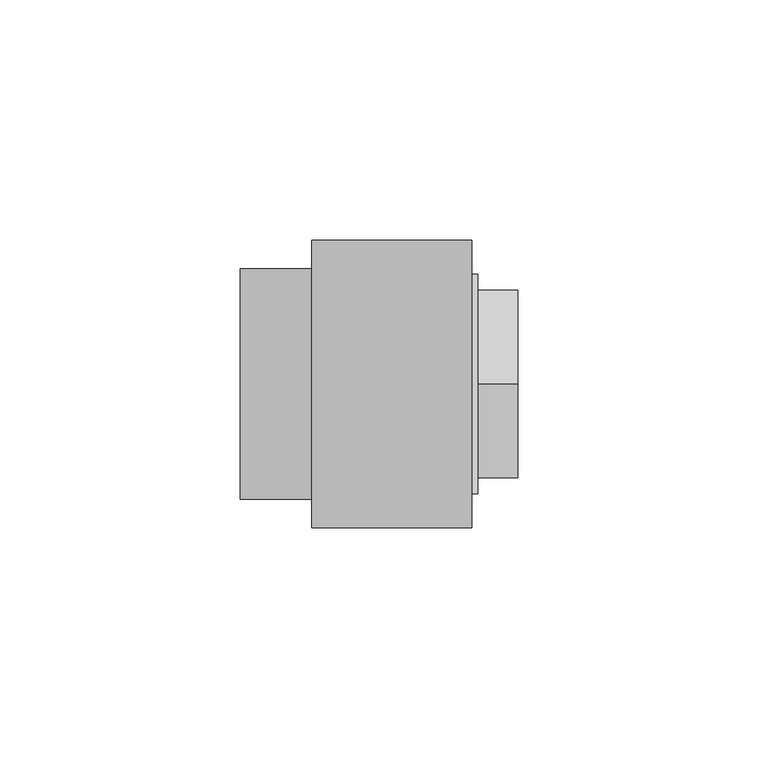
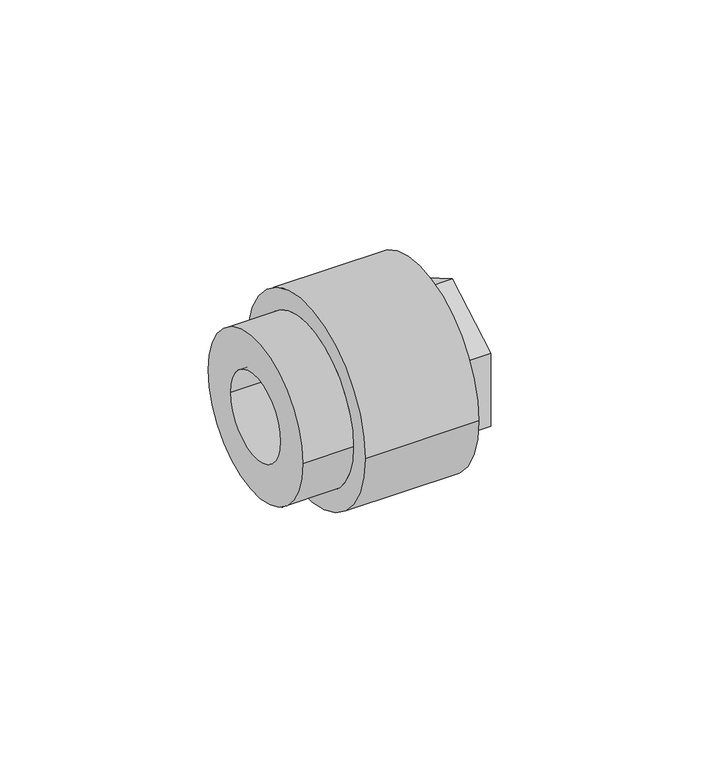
"""IFC4 building model written with IfcOpenShell, lengths in millimetres: pipe fitting geometry, Aquatherm - Fusion Outlet Transition Female : POTABLE BRASS - HEX."""

from ifc_helpers import new_model, si_unit, frame, origin, place, context, project, spatial, polyline, circle_curve, source, transform, mapped, element, save
from ifc_brep_helpers import plane_surface, cylinder_surface, revolved_surface, advanced_brep


def pipe_fitting_bdf1be44(model_context):
    return source(origin(), model_context, "Body", "AdvancedBrep", [
        advanced_brep(
        [(25.4635, 15.875, 0.0), (25.4635, -15.875, 0.0), (40.3463125, -15.875, 0.0), (40.3463125, 15.875, 0.0), (25.4635, 16.66875, 0.0), (25.4635, -16.66875, 0.0), (22.2885, 16.66875, 0.0), (22.2885, -16.66875, 0.0), (22.2885, 12.7, 0.0), (22.2885, -12.7, 0.0), (19.1135, 12.7, 0.0), (19.1135, -12.7, 0.0), (19.1135, 24.003, 0.0), (19.1135, -24.003, 0.0), (33.401, 24.003, 0.0), (33.401, -24.003, 0.0), (42.926, 16.66875, 0.0), (42.926, -16.66875, 0.0), (42.926, -19.558, 0.0), (42.926, -19.558, -11.2918166), (42.926, 0.0, -22.5836331), (42.926, 19.558, -11.2918166), (42.926, 19.558, 0.0), (42.926, 19.558, 11.2918166), (42.926, 0.0, 22.5836331), (42.926, -19.558, 11.2918166), (33.401, 22.86, 0.0), (33.401, -22.86, 0.0), (34.591625, 22.86, 0.0), (34.591625, -22.86, 0.0), (34.591625, 0.0, -22.5836331), (34.591625, -19.558, -11.2918166), (34.591625, -19.558, 11.2918166), (34.591625, 0.0, 22.5836331), (34.591625, 19.558, 11.2918166), (34.591625, 19.558, -11.2918166)],
        [
            (0, 1, circle_curve(frame((25.4635, 0.0, 0.0), z_axis=(-1.0, 0.0, 0.0), x_axis=(0.0, -1.0, 0.0)), 15.875)),
            (1, 2),
            (2, 3, circle_curve(frame((40.3463125, 0.0, 0.0), z_axis=(1.0, 0.0, 0.0), x_axis=(0.0, -1.0, 0.0)), 15.875)),
            (3, 0),
            (1, 0, circle_curve(frame((25.4635, 0.0, 0.0), z_axis=(-1.0, 0.0, 0.0), x_axis=(0.0, -1.0, 0.0)), 15.875)),
            (3, 2, circle_curve(frame((40.3463125, 0.0, 0.0), z_axis=(1.0, 0.0, 0.0), x_axis=(0.0, -1.0, 0.0)), 15.875)),
            (0, 4),
            (4, 5, circle_curve(frame((25.4635, 0.0, 0.0), z_axis=(-1.0, 0.0, 0.0), x_axis=(0.0, -1.0, 0.0)), 16.66875)),
            (5, 1),
            (5, 4, circle_curve(frame((25.4635, 0.0, 0.0), z_axis=(-1.0, 0.0, 0.0), x_axis=(0.0, -1.0, 0.0)), 16.66875)),
            (4, 6),
            (6, 7, circle_curve(frame((22.2885, 0.0, 0.0), z_axis=(-1.0, 0.0, 0.0), x_axis=(0.0, -1.0, 0.0)), 16.66875)),
            (7, 5),
            (7, 6, circle_curve(frame((22.2885, 0.0, 0.0), z_axis=(-1.0, 0.0, 0.0), x_axis=(0.0, -1.0, 0.0)), 16.66875)),
            (6, 8),
            (8, 9, circle_curve(frame((22.2885, 0.0, 0.0), z_axis=(-1.0, 0.0, 0.0), x_axis=(0.0, -1.0, 0.0)), 12.7)),
            (9, 7),
            (9, 8, circle_curve(frame((22.2885, 0.0, 0.0), z_axis=(-1.0, 0.0, 0.0), x_axis=(0.0, -1.0, 0.0)), 12.7)),
            (8, 10),
            (10, 11, circle_curve(frame((19.1135, 0.0, 0.0), z_axis=(-1.0, 0.0, 0.0), x_axis=(0.0, -1.0, 0.0)), 12.7)),
            (11, 9),
            (11, 10, circle_curve(frame((19.1135, 0.0, 0.0), z_axis=(-1.0, 0.0, 0.0), x_axis=(0.0, -1.0, 0.0)), 12.7)),
            (10, 12),
            (12, 13, circle_curve(frame((19.1135, 0.0, 0.0), z_axis=(-1.0, 0.0, 0.0), x_axis=(0.0, -1.0, 0.0)), 24.003)),
            (13, 11),
            (13, 12, circle_curve(frame((19.1135, 0.0, 0.0), z_axis=(-1.0, 0.0, 0.0), x_axis=(0.0, -1.0, 0.0)), 24.003)),
            (12, 14),
            (14, 15, circle_curve(frame((33.401, 0.0, 0.0), z_axis=(-1.0, 0.0, 0.0), x_axis=(0.0, -1.0, 0.0)), 24.003)),
            (15, 13),
            (15, 14, circle_curve(frame((33.401, 0.0, 0.0), z_axis=(-1.0, 0.0, 0.0), x_axis=(0.0, -1.0, 0.0)), 24.003)),
            (16, 17, circle_curve(frame((42.926, 0.0, 0.0), z_axis=(-1.0, 0.0, 0.0), x_axis=(0.0, -1.0, 0.0)), 16.66875)),
            (17, 18),
            (18, 19),
            (19, 20),
            (20, 21),
            (21, 22),
            (22, 16),
            (17, 16, circle_curve(frame((42.926, 0.0, 0.0), z_axis=(-1.0, 0.0, 0.0), x_axis=(0.0, -1.0, 0.0)), 16.66875)),
            (22, 23),
            (23, 24),
            (24, 25),
            (25, 18),
            (2, 17),
            (16, 3),
            (14, 26),
            (26, 27, circle_curve(frame((33.401, 0.0, 0.0), z_axis=(-1.0, 0.0, 0.0), x_axis=(0.0, -1.0, 0.0)), 22.86)),
            (27, 15),
            (27, 26, circle_curve(frame((33.401, 0.0, 0.0), z_axis=(-1.0, 0.0, 0.0), x_axis=(0.0, -1.0, 0.0)), 22.86)),
            (26, 28),
            (28, 29, circle_curve(frame((34.591625, 0.0, 0.0), z_axis=(-1.0, 0.0, 0.0), x_axis=(0.0, -1.0, 0.0)), 22.86)),
            (29, 27),
            (29, 28, circle_curve(frame((34.591625, 0.0, 0.0), z_axis=(-1.0, 0.0, 0.0), x_axis=(0.0, -1.0, 0.0)), 22.86)),
            (30, 31),
            (31, 32),
            (32, 33),
            (33, 34),
            (34, 35),
            (35, 30),
            (35, 21),
            (20, 30),
            (34, 23),
            (33, 24),
            (32, 25),
            (31, 19),
        ],
        [
            revolved_surface(polyline([(40.3463125, -15.875, 0.0), (25.4635, -15.875, 0.0)]), (44.7592251, 0.0, 0.0), (1.0, 0.0, 0.0)),
            plane_surface(frame((25.4635, 0.0, 0.0), z_axis=(-1.0, 0.0, 0.0), x_axis=(0.0, -1.0, 0.0))),
            revolved_surface(polyline([(25.4635, -16.66875, 0.0), (22.2885, -16.66875, 0.0)]), (44.7592251, 0.0, 0.0), (1.0, 0.0, 0.0)),
            plane_surface(frame((22.2885, 0.0, 0.0), z_axis=(1.0, 0.0, 0.0), x_axis=(0.0, -1.0, 0.0))),
            revolved_surface(polyline([(22.2885, -12.7, 0.0), (19.1135, -12.7, 0.0)]), (44.7592251, 0.0, 0.0), (1.0, 0.0, 0.0)),
            plane_surface(frame((19.1135, 0.0, 0.0), z_axis=(-1.0, 0.0, 0.0), x_axis=(0.0, -1.0, 0.0))),
            cylinder_surface(frame((44.7592251, 0.0, 0.0), z_axis=(1.0, 0.0, 0.0), x_axis=(0.0, -1.0, 0.0)), 24.003),
            plane_surface(frame((42.926, 0.0, 0.0), z_axis=(1.0, 0.0, 0.0), x_axis=(0.0, -1.0, 0.0))),
            revolved_surface(polyline([(42.926, -16.66875, 0.0), (40.3463125, -15.875, 0.0)]), (44.7592251, 0.0, 0.0), (1.0, 0.0, 0.0)),
            plane_surface(frame((33.401, 0.0, 0.0), z_axis=(1.0, 0.0, 0.0), x_axis=(0.0, -1.0, 0.0))),
            cylinder_surface(frame((44.7592251, 0.0, 0.0), z_axis=(1.0, 0.0, 0.0), x_axis=(0.0, -1.0, 0.0)), 22.86),
            plane_surface(frame((34.591625, 19.558, -11.2918166), z_axis=(1.0000000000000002, 0.0, 0.0), x_axis=(0.0, 0.8660254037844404, 0.4999999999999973))),
            plane_surface(frame((34.591625, 0.0, -22.5836331), z_axis=(0.0, 0.4999999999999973, -0.8660254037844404), x_axis=(1.0, 0.0, 0.0))),
            plane_surface(frame((34.591625, 19.558, -11.2918166), z_axis=(0.0, 1.0, 0.0), x_axis=(1.0, 0.0, 0.0))),
            plane_surface(frame((34.591625, 19.558, 11.2918166), z_axis=(0.0, 0.5000000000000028, 0.8660254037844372), x_axis=(1.0, 0.0, 0.0))),
            plane_surface(frame((34.591625, 0.0, 22.5836331), z_axis=(0.0, -0.49999999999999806, 0.8660254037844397), x_axis=(1.0, 0.0, 0.0))),
            plane_surface(frame((34.591625, -19.558, 11.2918166), z_axis=(0.0, -1.0, 0.0), x_axis=(1.0, 0.0, 0.0))),
            plane_surface(frame((34.591625, -19.558, -11.2918166), z_axis=(0.0, -0.5000000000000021, -0.8660254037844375), x_axis=(1.0, 0.0, 0.0))),
        ],
        [
            (0, [[1, 2, 3, 4]]),
            (0, [[-2, 5, -4, 6]]),
            (1, [[-1, 7, 8, 9]]),
            (1, [[-5, -9, 10, -7]]),
            (2, [[-8, 11, 12, 13]]),
            (2, [[-10, -13, 14, -11]]),
            (3, [[-12, 15, 16, 17]]),
            (3, [[-14, -17, 18, -15]]),
            (4, [[-16, 19, 20, 21]]),
            (4, [[-18, -21, 22, -19]]),
            (5, [[-20, 23, 24, 25]]),
            (5, [[-22, -25, 26, -23]]),
            (6, [[-24, 27, 28, 29]]),
            (6, [[-26, -29, 30, -27]]),
            (7, [[31, 32, 33, 34, 35, 36, 37]]),
            (7, [[38, -37, 39, 40, 41, 42, -32]]),
            (8, [[-3, 43, -31, 44]]),
            (8, [[-6, -44, -38, -43]]),
            (9, [[-28, 45, 46, 47]]),
            (9, [[-30, -47, 48, -45]]),
            (10, [[-46, 49, 50, 51]]),
            (10, [[-48, -51, 52, -49]]),
            (11, [[-50, -52], [53, 54, 55, 56, 57, 58]]),
            (12, [[-58, 59, -35, 60]]),
            (13, [[-57, 61, -39, -36, -59]]),
            (14, [[-56, 62, -40, -61]]),
            (15, [[-55, 63, -41, -62]]),
            (16, [[-54, 64, -33, -42, -63]]),
            (17, [[-53, -60, -34, -64]]),
        ],
    ),
        advanced_brep(
        [(-14.8967568, 24.003, 0.0), (-14.8967568, -24.003, 0.0), (-14.8967568, 12.7, 0.0), (-14.8967568, -12.7, 0.0), (19.1135, 24.003, 0.0), (19.1135, -24.003, 0.0), (19.1135, 12.7, 0.0), (19.1135, -12.7, 0.0), (0.0, 24.003, 0.0), (0.0, -24.003, 0.0), (33.401, 29.972, 0.0), (33.401, -29.972, 0.0), (33.401, 24.003, 0.0), (33.401, -24.003, 0.0), (0.0, 29.972, 0.0), (0.0, -29.972, 0.0)],
        [
            (0, 1, circle_curve(frame((-14.8967568, 0.0, 0.0), z_axis=(-1.0, 0.0, 0.0), x_axis=(0.0, -1.0, 0.0)), 24.003)),
            (1, 0, circle_curve(frame((-14.8967568, 0.0, 0.0), z_axis=(-1.0, 0.0, 0.0), x_axis=(0.0, -1.0, 0.0)), 24.003)),
            (2, 3, circle_curve(frame((-14.8967568, 0.0, 0.0), z_axis=(1.0, 0.0, 0.0), x_axis=(0.0, -1.0, 0.0)), 12.7)),
            (3, 2, circle_curve(frame((-14.8967568, 0.0, 0.0), z_axis=(1.0, 0.0, 0.0), x_axis=(0.0, -1.0, 0.0)), 12.7)),
            (4, 5, circle_curve(frame((19.1135, 0.0, 0.0), z_axis=(1.0, 0.0, 0.0), x_axis=(0.0, -1.0, 0.0)), 24.003)),
            (5, 4, circle_curve(frame((19.1135, 0.0, 0.0), z_axis=(1.0, 0.0, 0.0), x_axis=(0.0, -1.0, 0.0)), 24.003)),
            (6, 7, circle_curve(frame((19.1135, 0.0, 0.0), z_axis=(-1.0, 0.0, 0.0), x_axis=(0.0, -1.0, 0.0)), 12.7)),
            (7, 6, circle_curve(frame((19.1135, 0.0, 0.0), z_axis=(-1.0, 0.0, 0.0), x_axis=(0.0, -1.0, 0.0)), 12.7)),
            (2, 6),
            (7, 3),
            (0, 8),
            (8, 9, circle_curve(frame((0.0, 0.0, 0.0), z_axis=(-1.0, 0.0, 0.0), x_axis=(0.0, -1.0, 0.0)), 24.003)),
            (9, 1),
            (9, 8, circle_curve(frame((0.0, 0.0, 0.0), z_axis=(-1.0, 0.0, 0.0), x_axis=(0.0, -1.0, 0.0)), 24.003)),
            (10, 11, circle_curve(frame((33.401, 0.0, 0.0), z_axis=(1.0, 0.0, 0.0), x_axis=(0.0, -1.0, 0.0)), 29.972)),
            (11, 10, circle_curve(frame((33.401, 0.0, 0.0), z_axis=(1.0, 0.0, 0.0), x_axis=(0.0, -1.0, 0.0)), 29.972)),
            (12, 13, circle_curve(frame((33.401, 0.0, 0.0), z_axis=(-1.0, 0.0, 0.0), x_axis=(0.0, -1.0, 0.0)), 24.003)),
            (13, 12, circle_curve(frame((33.401, 0.0, 0.0), z_axis=(-1.0, 0.0, 0.0), x_axis=(0.0, -1.0, 0.0)), 24.003)),
            (14, 15, circle_curve(frame((0.0, 0.0, 0.0), z_axis=(-1.0, 0.0, 0.0), x_axis=(0.0, -1.0, 0.0)), 29.972)),
            (15, 14, circle_curve(frame((0.0, 0.0, 0.0), z_axis=(-1.0, 0.0, 0.0), x_axis=(0.0, -1.0, 0.0)), 29.972)),
            (13, 5),
            (4, 12),
            (11, 15),
            (14, 10),
        ],
        [
            plane_surface(frame((-14.8967568, -12.7, 0.0), z_axis=(-1.0, 0.0, 0.0), x_axis=(0.0, 0.0, -1.0))),
            plane_surface(frame((19.1135, -12.7, 0.0), z_axis=(1.0, 0.0, 0.0), x_axis=(0.0, 0.0, 1.0))),
            revolved_surface(polyline([(19.1135, -12.7, 0.0), (-14.896756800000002, -12.7, 0.0)]), (19.1135, 0.0, 0.0), (1.0, 0.0, 0.0)),
            cylinder_surface(frame((0.0, 0.0, 0.0), z_axis=(-1.0, 0.0, 0.0), x_axis=(0.0, -1.0, 0.0)), 24.003),
            plane_surface(frame((33.401, -24.003, 0.0), z_axis=(1.0, 0.0, 0.0), x_axis=(0.0, 0.0, 1.0))),
            plane_surface(frame((0.0, -24.003, 0.0), z_axis=(-1.0, 0.0, 0.0), x_axis=(0.0, 0.0, -1.0))),
            revolved_surface(polyline([(33.401, -24.003, 0.0), (19.1135, -24.003, 0.0)]), (33.401, 0.0, 0.0), (1.0, 0.0, 0.0)),
            cylinder_surface(frame((0.0, 0.0, 0.0), z_axis=(-1.0, 0.0, 0.0), x_axis=(0.0, -1.0, 0.0)), 29.972),
        ],
        [
            (0, [[1, 2], [3, 4]]),
            (1, [[5, 6], [7, 8]]),
            (2, [[-3, 9, -8, 10]]),
            (2, [[-4, -10, -7, -9]]),
            (3, [[-1, 11, 12, 13]]),
            (3, [[-2, -13, 14, -11]]),
            (4, [[15, 16], [17, 18]]),
            (5, [[19, 20], [-12, -14]]),
            (6, [[-18, 21, -5, 22]]),
            (6, [[-17, -22, -6, -21]]),
            (7, [[-16, 23, -19, 24]]),
            (7, [[-15, -24, -20, -23]]),
        ],
    ),
    ])


if __name__ == "__main__":
    model = new_model("IFC4")
    model_context = context("Model", 3, world=origin())
    ifc_project = project(units=[si_unit("LENGTHUNIT", "METRE", prefix="MILLI")], contexts=[model_context])
    site = spatial("IfcSite", under=ifc_project)
    building = spatial("IfcBuilding", under=site)
    placement = place(None, origin())
    pipe_fitting_shape = pipe_fitting_bdf1be44(model_context)
    element("IfcPipeFitting", 1, ObjectType="Aquatherm - Fusion Outlet Transition Female : POTABLE BRASS - HEX", at=placement, inside=building, context=model_context, shape_type="MappedRepresentation", body=[
        mapped(pipe_fitting_shape, transform((0.0, 0.0, 0.0), x_axis=(1.0, 0.0, 0.0), y_axis=(0.0, 1.0, 0.0), z_axis=(0.0, 0.0, 1.0))),
    ])
    save(model, "model.ifc")
